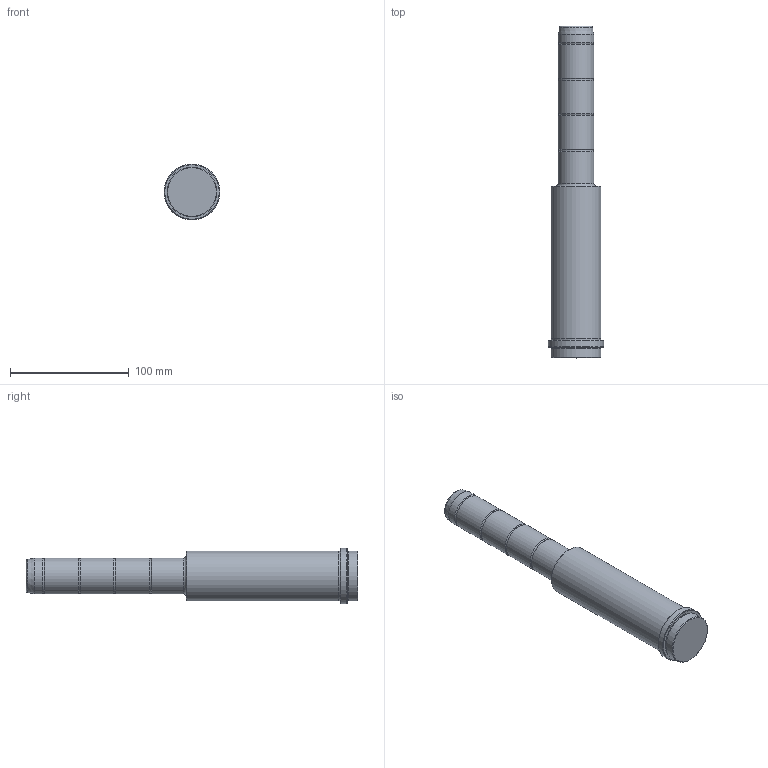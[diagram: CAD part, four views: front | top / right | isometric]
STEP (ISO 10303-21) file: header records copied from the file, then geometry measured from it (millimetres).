
FILE_DESCRIPTION( ( 'STEP AP203' ), '1' );
FILE_NAME( 'D:/Cuma/24 03 2009/D03/D03_30X136X135.step', '2002-12-31T23:15:01', ( ' ' ), ( ' ' ), 'XStep 1.0', ' ', ' ' );
FILE_SCHEMA( ( 'CONFIG_CONTROL_DESIGN' ) );
Length unit declared in the file: metre
Products named in the file (1): 1
Bounding box: 47 x 280 x 47 mm (x, y, z)
Volume: 297688.3 mm3; surface area: 35244 mm2
Topology: 1 solids, 1 shells, 28 faces, 52 edges, 31 vertices
Faces by surface type: cylinder 10, plane 7, torus 6, cone 5
Full cylindrical faces by diameter (mm): 30 x5, 41.5 x2, 42 x2, 47 x1
Entity records: 599 total; most frequent: DIRECTION 112, CARTESIAN_POINT 83, AXIS2_PLACEMENT_3D 56, EDGE_LOOP 54, ORIENTED_EDGE 54, FACE_OUTER_BOUND 44, ADVANCED_FACE 28, EDGE_CURVE 27
